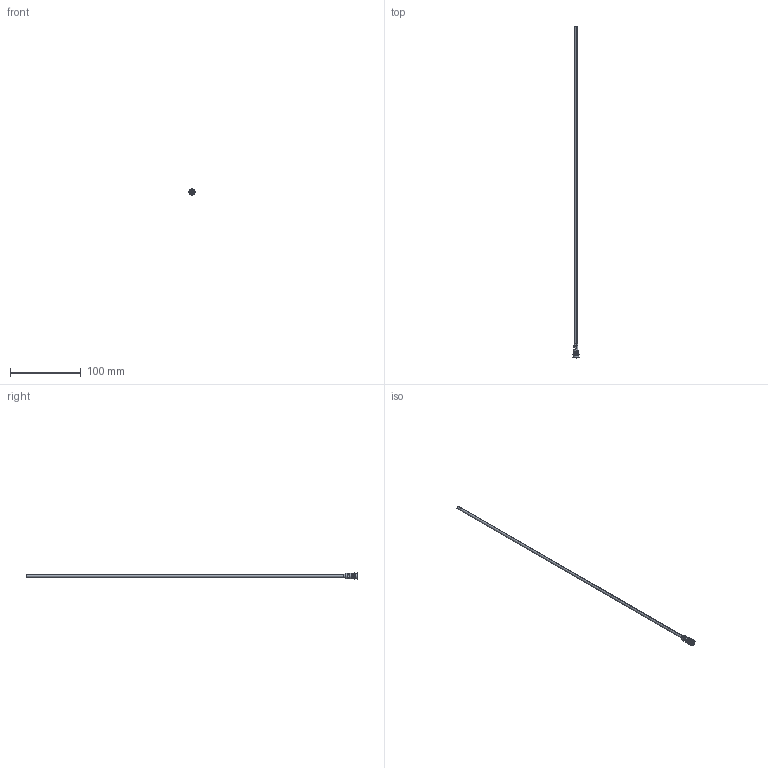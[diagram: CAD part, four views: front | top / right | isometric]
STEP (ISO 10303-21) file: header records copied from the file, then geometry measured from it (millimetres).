
FILE_DESCRIPTION (( 'STEP AP203' ), '1' );
FILE_NAME ('RF-8Fx450-4.STEP', '2015-11-25T08:55:34', ( 'Balzi' ), ( '' ), 'SwSTEP 2.0', 'SolidWorks 2015', '' );
FILE_SCHEMA (( 'CONFIG_CONTROL_DESIGN' ));
Length unit declared in the file: millimetre
Products named in the file (1): RF-8Fx450-4
Bounding box: 9 x 468 x 9 mm (x, y, z)
Volume: 1948.6 mm3; surface area: 11430.8 mm2
Topology: 1 solids, 1 shells, 77 faces, 176 edges, 108 vertices
Faces by surface type: cylinder 28, plane 25, torus 12, cone 12
Entity records: 2268 total; most frequent: DIRECTION 419, CARTESIAN_POINT 381, ORIENTED_EDGE 352, EDGE_CURVE 176, AXIS2_PLACEMENT_3D 170, VERTEX_POINT 108, CIRCLE 92, EDGE_LOOP 86
